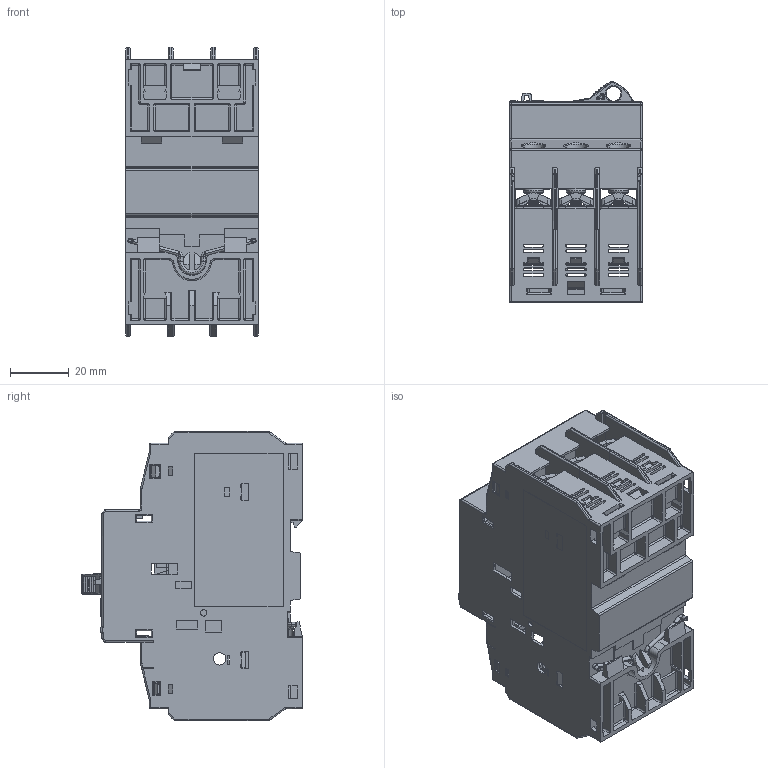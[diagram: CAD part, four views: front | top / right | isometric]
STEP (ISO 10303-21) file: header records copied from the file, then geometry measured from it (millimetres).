
FILE_DESCRIPTION((''),'2;1');
FILE_NAME('07051001_TOTAL_ASSY_M_SW0001','2021-03-17T',('jshwangb'),(''),'CREO PARAMETRIC BY PTC INC, 2015380','CREO PARAMETRIC BY PTC INC, 2015380','');
FILE_SCHEMA(('CONFIG_CONTROL_DESIGN'));
Products named in the file (1): 07051001_TOTAL_ASSY_M_SW0001
Bounding box: 45.2 x 74.77 x 98 mm (x, y, z)
Volume: 40881.8 mm3; surface area: 65660.4 mm2
Topology: 18 solids, 18 shells, 4492 faces, 12624 edges, 8095 vertices
Faces by surface type: plane 3078, cylinder 1075, bspline 130, torus 94, sphere 65, cone 50
Entity records: 161388 total; most frequent: CARTESIAN_POINT 46378, ORIENTED_EDGE 25124, DIRECTION 22301, EDGE_CURVE 12562, VECTOR 9423, LINE 9423, VERTEX_POINT 8095, AXIS2_PLACEMENT_3D 6439
